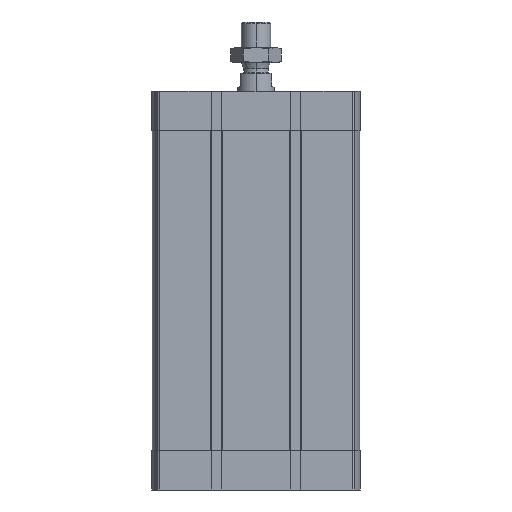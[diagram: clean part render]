
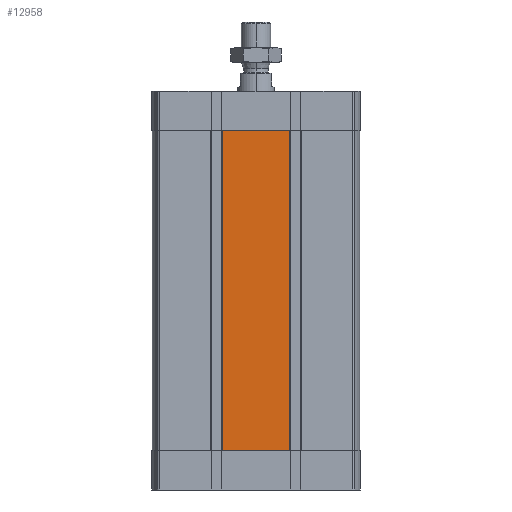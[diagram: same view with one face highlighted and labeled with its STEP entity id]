
A CAD part, left-side view. The second image highlights one B-rep face of the part: STEP entity #12958.
In plain terms, the highlighted planar face has unit normal (-1, 0, 0).
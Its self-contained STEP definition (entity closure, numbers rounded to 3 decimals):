
#354 = LINE ( 'NONE', #15287, #20341 ) ;
#364 = ORIENTED_EDGE ( 'NONE', *, *, #19594, .F. ) ;
#388 = CARTESIAN_POINT ( 'NONE',  ( -56.5, -18.345, -195.5 ) ) ;
#839 = ORIENTED_EDGE ( 'NONE', *, *, #6895, .F. ) ;
#2630 = ORIENTED_EDGE ( 'NONE', *, *, #11655, .T. ) ;
#2651 = CARTESIAN_POINT ( 'NONE',  ( -56.5, 18.345, -195.5 ) ) ;
#2794 = PLANE ( 'NONE',  #15083 ) ;
#3585 = EDGE_LOOP ( 'NONE', ( #364, #839, #2630, #19859 ) ) ;
#3660 = DIRECTION ( 'NONE',  ( 0., -1., 0. ) ) ;
#4093 = DIRECTION ( 'NONE',  ( -1., 0., 0. ) ) ;
#4795 = DIRECTION ( 'NONE',  ( 0., 0., 1. ) ) ;
#5158 = VECTOR ( 'NONE', #4795, 1000. ) ;
#5851 = DIRECTION ( 'NONE',  ( 0., -1., 0. ) ) ;
#6895 = EDGE_CURVE ( 'NONE', #19207, #8312, #354, .T. ) ;
#7119 = DIRECTION ( 'NONE',  ( 0., 0., 1. ) ) ;
#7745 = DIRECTION ( 'NONE',  ( 0., 0., 1. ) ) ;
#8312 = VERTEX_POINT ( 'NONE', #21153 ) ;
#9987 = VERTEX_POINT ( 'NONE', #19103 ) ;
#10097 = CARTESIAN_POINT ( 'NONE',  ( -56.5, 18.345, -195.5 ) ) ;
#10409 = VECTOR ( 'NONE', #5851, 1000. ) ;
#11655 = EDGE_CURVE ( 'NONE', #19207, #15159, #11712, .T. ) ;
#11712 = LINE ( 'NONE', #10097, #15384 ) ;
#12479 = FACE_OUTER_BOUND ( 'NONE', #3585, .T. ) ;
#12958 = ADVANCED_FACE ( 'NONE', ( #12479 ), #2794, .T. ) ;
#13352 = EDGE_CURVE ( 'NONE', #15159, #9987, #14577, .T. ) ;
#14327 = CARTESIAN_POINT ( 'NONE',  ( -56.5, 18.345, -21.5 ) ) ;
#14577 = LINE ( 'NONE', #21011, #5158 ) ;
#15083 = AXIS2_PLACEMENT_3D ( 'NONE', #15588, #4093, #7745 ) ;
#15159 = VERTEX_POINT ( 'NONE', #388 ) ;
#15287 = CARTESIAN_POINT ( 'NONE',  ( -56.5, 18.345, -195.5 ) ) ;
#15384 = VECTOR ( 'NONE', #3660, 1000. ) ;
#15588 = CARTESIAN_POINT ( 'NONE',  ( -56.5, 18.345, -195.5 ) ) ;
#19103 = CARTESIAN_POINT ( 'NONE',  ( -56.5, -18.345, -21.5 ) ) ;
#19207 = VERTEX_POINT ( 'NONE', #2651 ) ;
#19594 = EDGE_CURVE ( 'NONE', #8312, #9987, #20867, .T. ) ;
#19859 = ORIENTED_EDGE ( 'NONE', *, *, #13352, .T. ) ;
#20341 = VECTOR ( 'NONE', #7119, 1000. ) ;
#20867 = LINE ( 'NONE', #14327, #10409 ) ;
#21011 = CARTESIAN_POINT ( 'NONE',  ( -56.5, -18.345, -195.5 ) ) ;
#21153 = CARTESIAN_POINT ( 'NONE',  ( -56.5, 18.345, -21.5 ) ) ;
